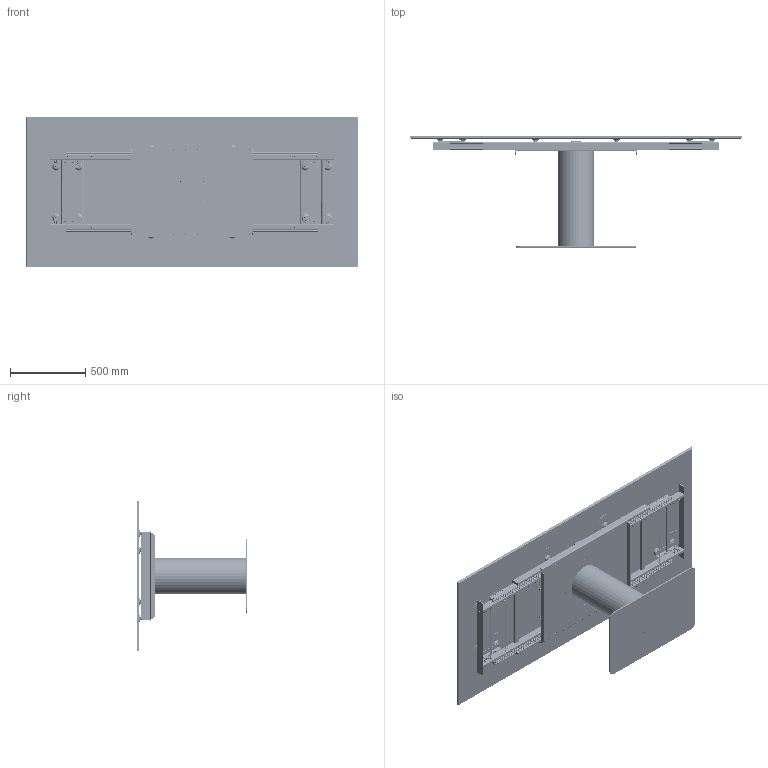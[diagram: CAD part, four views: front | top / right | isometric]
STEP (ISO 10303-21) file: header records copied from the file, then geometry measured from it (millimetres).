
FILE_DESCRIPTION (( 'STEP AP203' ), '1' );
FILE_NAME ('CA32C.STEP', '2024-08-08T07:36:35', ( '' ), ( '' ), 'SwSTEP 2.0', 'SolidWorks 2022', '' );
FILE_SCHEMA (( 'CONFIG_CONTROL_DESIGN' ));
Length unit declared in the file: millimetre
Products named in the file (74): 1000487(2)^5210611 TEL EST_DEFAULT_TTAV05-00-Telaio allungabile per tavolo san babila; 1000244(2)^FERMO NEBULA H25_5210611 TEL EST_DEFAULT_TTAV05-00-Telaio allungabile per tavolo san babila; 1000338^RUOTA NEB H23,4_5210611 TEL INT_CHIUSO_TTAV05-00-Telaio allungabile per tavolo san babila; 521061111^5210611 TEL EST_DEFAULT_TTAV05-00-Telaio allungabile per tavolo san babila; 1000034^FERMO NEBULA H25_5210611 TEL EST_DEFAULT_TTAV05-00-Telaio allungabile per tavolo san babila; 1000022^5210611 TEL EST_DEFAULT_TTAV05-00-Telaio allungabile per tavolo san babila; FERMO NEBULA H15,5(2)^5210611 TEL EST_DEFAULT_TTAV05-00-Telaio allungabile per tavolo san babila; SAB000002-01-CILINDRO ALL.140_220 PIASTRA SOPRA; 1000443(2)^RUOTA NEB H23,4(2)_5210611 TEL EST_DEFAULT_TTAV05-00-Telaio allungabile per tavolo san babila; CIR000000-00-ASSIEME BASAMENTO CILINDRO ALLUNGABILE; 1000242^FERMO NEBULA H15,5_5210611 TEL INT_CHIUSO_TTAV05-00-Telaio allungabile per tavolo san babila; 521061104_DEFAULT^5210611 SAL_LIBERO_5210611 TEL INT_CHIUSO_TTAV05-00-Telaio allungabile per tavolo san babila; RUOTA NEB H23,4^5210611 TEL INT_CHIUSO_TTAV05-00-Telaio allungabile per tavolo san babila; 1000808^5210611 TEL EST_DEFAULT_TTAV05-00-Telaio allungabile per tavolo san babila; 1000515(2)^FERMO NEBULA H15,5(2)_5210611 TEL EST_DEFAULT_TTAV05-00-Telaio allungabile per tavolo san babila; 1000289^5210611 TEL INT_CHIUSO_TTAV05-00-Telaio allungabile per tavolo san babila; SAB000002_02-01-CILINDRO ALL.140_220 PIASTRA SOPRA; Morsa tavolo CIRO''; 1000325(2)^FERMO NEBULA H15,5(2)_5210611 TEL EST_DEFAULT_TTAV05-00-Telaio allungabile per tavolo san babila; SAB000000-00-CILINDRO ALL.COLONNA D.25m; 521060816^5210611 TEL EST_DEFAULT_TTAV05-00-Telaio allungabile per tavolo san babila; 521061106^5210611 SAL_LIBERO_5210611 TEL INT_CHIUSO_TTAV05-00-Telaio allungabile per tavolo san babila; 521061103^5210611 TEL EST_DEFAULT_TTAV05-00-Telaio allungabile per tavolo san babila; 521061107_DEFAULT^5210611 SAL_LIBERO_5210611 TEL INT_CHIUSO_TTAV05-00-Telaio allungabile per tavolo san babila; 1000487^5210611 TEL INT_CHIUSO_TTAV05-00-Telaio allungabile per tavolo san babila; 1000084^RUOTA NEB H23,4_5210611 TEL INT_CHIUSO_TTAV05-00-Telaio allungabile per tavolo san babila; 521061101^5210611 SAL_LIBERO_5210611 TEL INT_CHIUSO_TTAV05-00-Telaio allungabile per tavolo san babila; 5210611 SAL_LIBERO^5210611 TEL INT_CHIUSO_TTAV05-00-Telaio allungabile per tavolo san babila_aperto; 1000304^5210611 TEL INT_CHIUSO_TTAV05-00-Telaio allungabile per tavolo san babila; 521061108^5210611 SAL_LIBERO_5210611 TEL INT_CHIUSO_TTAV05-00-Telaio allungabile per tavolo san babila; TTAV05-00-Telaio allungabile per tavolo san babila_aperto; K3XXXX-00-Piani allungabili in ceramica_K32 140x100 TTAV05; 1000244^5210611 TEL INT_CHIUSO_TTAV05-00-Telaio allungabile per tavolo san babila; K3XAXXX-00-Allunghe dei piani allungabili in ceramica_K32A 100X40 TTAV05; M8xXXmm_hex_M8X20mm; FERMO NEBULA H15,5^5210611 TEL INT_CHIUSO_TTAV05-00-Telaio allungabile per tavolo san babila; 1000515^FERMO NEBULA H15,5_5210611 TEL INT_CHIUSO_TTAV05-00-Telaio allungabile per tavolo san babila; 521061112^5210611 GUI_TTAV05-00-Telaio allungabile per tavolo san babila; 521061110^5210611 TEL EST_DEFAULT_TTAV05-00-Telaio allungabile per tavolo san babila; 1000242(2)^FERMO NEBULA H15,5(2)_5210611 TEL EST_DEFAULT_TTAV05-00-Telaio allungabile per tavolo san babila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
Assembly tree (186 placements, depth 5):
  CA32C
    K3XAXXX-00-Allunghe dei piani allungabili in ceramica_K32A 100X40 TTAV05  x2
      K3XA-00-Allunghe per Piani Allungabili centrale_K32A 100x40 TTAV05
      DISCO PER PIANI IN CERAMICA
    K3XXXX-00-Piani allungabili in ceramica_K32 140x100 TTAV05
      K3X-00-Piani Allungabili centrale_K32 140x100 TTAV05
      DISCO PER PIANI IN CERAMICA  x4
    CIR000000-00-ASSIEME BASAMENTO CILINDRO ALLUNGABILE
      SAB100201-00-CILINDRO ALL.140_220 PIASTRA SOTTO
      SAB000000-00-CILINDRO ALL.COLONNA D.25m
      M8xXXmm_hex_M8X20mm  x4
      SAB000002-01-CILINDRO ALL.140_220 PIASTRA SOPRA
        SAB000002_01-01-CILINDRO ALL.140_220 PIASTRA SOPRA
        SAB000002_02-01-CILINDRO ALL.140_220 PIASTRA SOPRA  x2
    TTAV05-00-Telaio allungabile per tavolo san babila_aperto
      5210611 GUI^TTAV05-00-Telaio allungabile per tavolo san babila  x4
        1000249^5210611 GUI_TTAV05-00-Telaio allungabile per tavolo san babila
        521061112^5210611 GUI_TTAV05-00-Telaio allungabile per tavolo san babila
      5210611 TEL INT_CHIUSO^TTAV05-00-Telaio allungabile per tavolo san babila_aperto  x2
        RUOTA NEB H23,4^5210611 TEL INT_CHIUSO_TTAV05-00-Telaio allungabile per tavolo san babila
          1000338^RUOTA NEB H23,4_5210611 TEL INT_CHIUSO_TTAV05-00-Telaio allungabile per tavolo san babila
          1000443^RUOTA NEB H23,4_5210611 TEL INT_CHIUSO_TTAV05-00-Telaio allungabile per tavolo san babila
          1000084^RUOTA NEB H23,4_5210611 TEL INT_CHIUSO_TTAV05-00-Telaio allungabile per tavolo san babila
        5210611 SAL_LIBERO^5210611 TEL INT_CHIUSO_TTAV05-00-Telaio allungabile per tavolo san babila_aperto
          521061107_DEFAULT^5210611 SAL_LIBERO_5210611 TEL INT_CHIUSO_TTAV05-00-Telaio allungabile per tavolo san babila  x4
          2001011^5210611 SAL_LIBERO_5210611 TEL INT_CHIUSO_TTAV05-00-Telaio allungabile per tavolo san babila  x2
          521061108^5210611 SAL_LIBERO_5210611 TEL INT_CHIUSO_TTAV05-00-Telaio allungabile per tavolo san babila
          521061101^5210611 SAL_LIBERO_5210611 TEL INT_CHIUSO_TTAV05-00-Telaio allungabile per tavolo san babila  x2
          521061104_DEFAULT^5210611 SAL_LIBERO_5210611 TEL INT_CHIUSO_TTAV05-00-Telaio allungabile per tavolo san babila
          521061106^5210611 SAL_LIBERO_5210611 TEL INT_CHIUSO_TTAV05-00-Telaio allungabile per tavolo san babila
          521061105^5210611 SAL_LIBERO_5210611 TEL INT_CHIUSO_TTAV05-00-Telaio allungabile per tavolo san babila
        FERMO NEBULA H15,5^5210611 TEL INT_CHIUSO_TTAV05-00-Telaio allungabile per tavolo san babila
          1000325^FERMO NEBULA H15,5_5210611 TEL INT_CHIUSO_TTAV05-00-Telaio allungabile per tavolo san babila
          1000242^FERMO NEBULA H15,5_5210611 TEL INT_CHIUSO_TTAV05-00-Telaio allungabile per tavolo san babila
          1000515^FERMO NEBULA H15,5_5210611 TEL INT_CHIUSO_TTAV05-00-Telaio allungabile per tavolo san babila
        1000375^5210611 TEL INT_CHIUSO_TTAV05-00-Telaio allungabile per tavolo san babila
        1000973^5210611 TEL INT_CHIUSO_TTAV05-00-Telaio allungabile per tavolo san babila
        1000487^5210611 TEL INT_CHIUSO_TTAV05-00-Telaio allungabile per tavolo san babila
        1000181^5210611 TEL INT_CHIUSO_TTAV05-00-Telaio allungabile per tavolo san babila
        1000289^5210611 TEL INT_CHIUSO_TTAV05-00-Telaio allungabile per tavolo san babila
        1000244^5210611 TEL INT_CHIUSO_TTAV05-00-Telaio allungabile per tavolo san babila
        1000262^5210611 TEL INT_CHIUSO_TTAV05-00-Telaio allungabile per tavolo san babila
        521061102^5210611 TEL INT_CHIUSO_TTAV05-00-Telaio allungabile per tavolo san babila
        Morsa tavolo CIRO''
        1000096^5210611 TEL INT_CHIUSO_TTAV05-00-Telaio allungabile per tavolo san babila
        1000304^5210611 TEL INT_CHIUSO_TTAV05-00-Telaio allungabile per tavolo san babila
        1000170^5210611 TEL INT_CHIUSO_TTAV05-00-Telaio allungabile per tavolo san babila
        521061109^5210611 TEL INT_CHIUSO_TTAV05-00-Telaio allungabile per tavolo san babila
      5210611 TEL EST_DEFAULT^TTAV05-00-Telaio allungabile per tavolo san babila
        RUOTA NEB H23,4(2)^5210611 TEL EST_DEFAULT_TTAV05-00-Telaio allungabile per tavolo san babila  x8
          1000338(2)^RUOTA NEB H23,4(2)_5210611 TEL EST_DEFAULT_TTAV05-00-Telaio allungabile per tavolo san babila
          1000443(2)^RUOTA NEB H23,4(2)_5210611 TEL EST_DEFAULT_TTAV05-00-Telaio allungabile per tavolo san babila
          1000084(2)^RUOTA NEB H23,4(2)_5210611 TEL EST_DEFAULT_TTAV05-00-Telaio allungabile per tavolo san babila
        FERMO NEBULA H15,5(2)^5210611 TEL EST_DEFAULT_TTAV05-00-Telaio allungabile per tavolo san babila  x4
          1000325(2)^FERMO NEBULA H15,5(2)_5210611 TEL EST_DEFAULT_TTAV05-00-Telaio allungabile per tavolo san babila
          1000242(2)^FERMO NEBULA H15,5(2)_5210611 TEL EST_DEFAULT_TTAV05-00-Telaio allungabile per tavolo san babila
          1000515(2)^FERMO NEBULA H15,5(2)_5210611 TEL EST_DEFAULT_TTAV05-00-Telaio allungabile per tavolo san babila
        FERMO NEBULA H25^5210611 TEL EST_DEFAULT_TTAV05-00-Telaio allungabile per tavolo san babila  x2
          1000244(2)^FERMO NEBULA H25_5210611 TEL EST_DEFAULT_TTAV05-00-Telaio allungabile per tavolo san babila
          1000495^FERMO NEBULA H25_5210611 TEL EST_DEFAULT_TTAV05-00-Telaio allungabile per tavolo san babila
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Bounding box: 2200.69 x 735.5 x 1000 mm (x, y, z)
Volume: 43813776.6 mm3; surface area: 15514101.7 mm2
Topology: 271 solids, 271 shells, 9060 faces, 22134 edges, 13848 vertices
Faces by surface type: plane 4158, cylinder 2978, bspline 1024, cone 708, torus 192
Entity records: 70793 total; most frequent: CARTESIAN_POINT 21294, ORIENTED_EDGE 10072, DIRECTION 5368, EDGE_CURVE 5036, VERTEX_POINT 3208, AXIS2_PLACEMENT_3D 2413, EDGE_LOOP 2326, B_SPLINE_CURVE_WITH_KNOTS 2301
